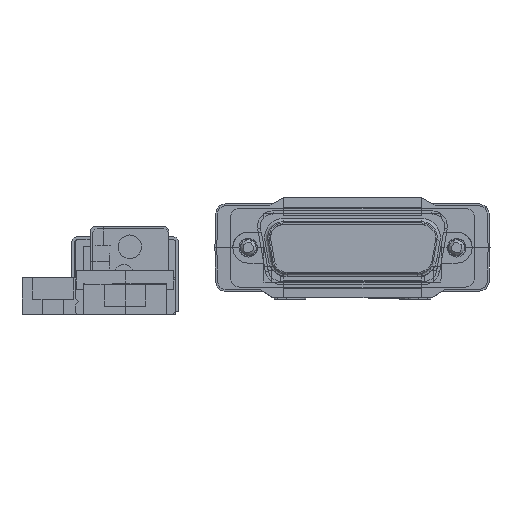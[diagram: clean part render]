
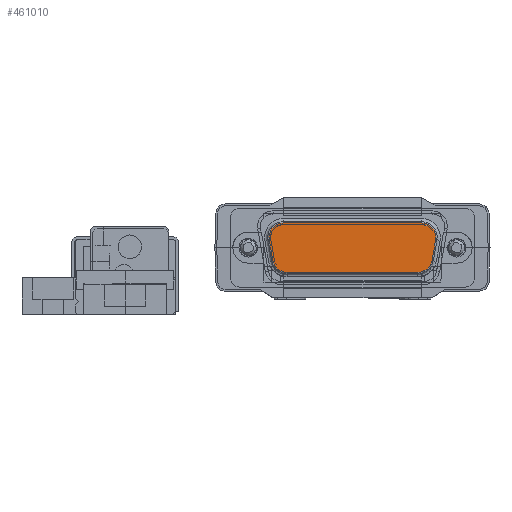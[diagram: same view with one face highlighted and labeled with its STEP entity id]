
A CAD part, left-side view. The second image highlights one B-rep face of the part: STEP entity #461010.
In plain terms, the highlighted planar face has unit normal (-1, 0, 0) as drawn and (1, 0, 0) by its records, which use the part's own axes.
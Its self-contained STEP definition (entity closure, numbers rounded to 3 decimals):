
#377160=CARTESIAN_POINT('',(-10.578,-37.393,
1.67));
#377170=DIRECTION('',(1.,0.,0.));
#377180=DIRECTION('',(0.,-1.,0.));
#377190=AXIS2_PLACEMENT_3D('',#377160,#377170,#377180);
#377200=CIRCLE('',#377190,2.05);
#377210=CARTESIAN_POINT('',(-10.578,-35.374,
2.026));
#377220=VERTEX_POINT('',#377210);
#377230=CARTESIAN_POINT('',(-10.578,-35.653,
2.755));
#377240=VERTEX_POINT('',#377230);
#377250=EDGE_CURVE('',#377220,#377240,#377200,.T.);
#402700=CARTESIAN_POINT('',(-10.578,-58.929,
-3.696));
#402710=VERTEX_POINT('',#402700);
#402760=CARTESIAN_POINT('',(-10.578,-44.902,
-3.696));
#402770=DIRECTION('',(0.,-1.,0.));
#402780=VECTOR('',#402770,1.);
#402790=LINE('',#402760,#402780);
#402800=CARTESIAN_POINT('',(-10.578,-36.819,
-3.696));
#402810=VERTEX_POINT('',#402800);
#402820=EDGE_CURVE('',#402810,#402710,#402790,.T.);
#403200=CARTESIAN_POINT('',(-10.578,-60.669,
-2.73));
#403210=VERTEX_POINT('',#403200);
#403240=CARTESIAN_POINT('',(-10.578,-58.929,
-1.646));
#403250=DIRECTION('',(1.,0.,0.));
#403260=DIRECTION('',(0.,-1.,0.));
#403270=AXIS2_PLACEMENT_3D('',#403240,#403250,#403260);
#403280=CIRCLE('',#403270,2.05);
#403290=EDGE_CURVE('',#403210,#402710,#403280,.T.);
#455550=CARTESIAN_POINT('',(-10.578,-34.8,
-1.29));
#455560=VERTEX_POINT('',#455550);
#455690=CARTESIAN_POINT('',(-10.578,-36.819,
-1.646));
#455700=DIRECTION('',(1.,0.,0.));
#455710=DIRECTION('',(0.,-1.,0.));
#455720=AXIS2_PLACEMENT_3D('',#455690,#455700,#455710);
#455730=CIRCLE('',#455720,2.05);
#455740=EDGE_CURVE('',#402810,#455560,#455730,.T.);
#458540=CARTESIAN_POINT('',(-10.578,-35.389,
2.05));
#458550=VERTEX_POINT('',#458540);
#458670=CARTESIAN_POINT('',(-10.578,-34.8,
-1.29));
#458680=DIRECTION('',(0.,-0.174,
0.985));
#458690=VECTOR('',#458680,1.);
#458700=LINE('',#458670,#458690);
#458710=EDGE_CURVE('',#455560,#458550,#458700,.T.);
#459240=CARTESIAN_POINT('',(-10.578,-34.785,
-1.314));
#459250=VERTEX_POINT('',#459240);
#459280=CARTESIAN_POINT('',(-10.578,-36.804,
-1.67));
#459290=DIRECTION('',(1.,0.,0.));
#459300=DIRECTION('',(0.,-1.,0.));
#459310=AXIS2_PLACEMENT_3D('',#459280,#459290,#459300);
#459320=CIRCLE('',#459310,2.05);
#459330=CARTESIAN_POINT('',(-10.578,-36.804,
-3.72));
#459340=VERTEX_POINT('',#459330);
#459350=EDGE_CURVE('',#459340,#459250,#459320,.T.);
#459600=CARTESIAN_POINT('',(-10.578,-36.128,
6.3));
#459610=DIRECTION('',(0.,-0.174,
0.985));
#459620=VECTOR('',#459610,1.);
#459630=LINE('',#459600,#459620);
#459640=EDGE_CURVE('',#459250,#377220,#459630,.T.);
#459830=CARTESIAN_POINT('',(-10.578,-37.408,
1.694));
#459840=DIRECTION('',(1.,0.,0.));
#459850=DIRECTION('',(0.,-1.,0.));
#459860=AXIS2_PLACEMENT_3D('',#459830,#459840,#459850);
#459870=CIRCLE('',#459860,2.05);
#459880=EDGE_CURVE('',#458550,#377240,#459870,.T.);
#460010=CARTESIAN_POINT('',(-10.578,-29.244,
6.3));
#460020=DIRECTION('',(1.,0.,0.));
#460030=DIRECTION('',(0.,-1.,0.));
#460040=AXIS2_PLACEMENT_3D('',#460010,#460020,#460030);
#460050=PLANE('',#460040);
#460060=ORIENTED_EDGE('',*,*,#459880,.T.);
#460070=ORIENTED_EDGE('',*,*,#458710,.T.);
#460080=ORIENTED_EDGE('',*,*,#455740,.T.);
#460090=ORIENTED_EDGE('',*,*,#402820,.F.);
#460100=ORIENTED_EDGE('',*,*,#403290,.T.);
#460110=CARTESIAN_POINT('',(-10.578,-58.914,
-1.67));
#460120=DIRECTION('',(1.,0.,0.));
#460130=DIRECTION('',(0.,-1.,0.));
#460140=AXIS2_PLACEMENT_3D('',#460110,#460120,#460130);
#460150=CIRCLE('',#460140,2.05);
#460160=CARTESIAN_POINT('',(-10.578,-58.914,
-3.72));
#460170=VERTEX_POINT('',#460160);
#460180=EDGE_CURVE('',#403210,#460170,#460150,.T.);
#460190=ORIENTED_EDGE('',*,*,#460180,.F.);
#460200=CARTESIAN_POINT('',(-10.578,-37.574,
-3.72));
#460210=DIRECTION('',(0.,1.,0.));
#460220=VECTOR('',#460210,1.);
#460230=LINE('',#460200,#460220);
#460240=EDGE_CURVE('',#460170,#459340,#460230,.T.);
#460250=ORIENTED_EDGE('',*,*,#460240,.F.);
#460260=ORIENTED_EDGE('',*,*,#459350,.F.);
#460270=ORIENTED_EDGE('',*,*,#459640,.F.);
#460280=ORIENTED_EDGE('',*,*,#377250,.F.);
#460290=EDGE_LOOP('',(#460280,#460270,#460260,#460250,#460190,#460100,
#460090,#460080,#460070,#460060));
#460300=FACE_BOUND('',#460290,.T.);
#460310=CARTESIAN_POINT('',(-10.578,-37.393,
1.67));
#460320=DIRECTION('',(1.,0.,0.));
#460330=DIRECTION('',(0.,-1.,0.));
#460340=AXIS2_PLACEMENT_3D('',#460310,#460320,#460330);
#460350=CIRCLE('',#460340,2.3);
#460360=CARTESIAN_POINT('',(-10.578,-35.128,
2.069));
#460370=VERTEX_POINT('',#460360);
#460380=CARTESIAN_POINT('',(-10.578,-37.393,
3.97));
#460390=VERTEX_POINT('',#460380);
#460400=EDGE_CURVE('',#460370,#460390,#460350,.T.);
#460410=ORIENTED_EDGE('',*,*,#460400,.T.);
#460420=CARTESIAN_POINT('',(-10.578,-35.874,
6.3));
#460430=DIRECTION('',(0.,-0.174,
0.985));
#460440=VECTOR('',#460430,1.);
#460450=LINE('',#460420,#460440);
#460460=CARTESIAN_POINT('',(-10.578,-34.539,
-1.271));
#460470=VERTEX_POINT('',#460460);
#460480=EDGE_CURVE('',#460470,#460370,#460450,.T.);
#460490=ORIENTED_EDGE('',*,*,#460480,.T.);
#460500=CARTESIAN_POINT('',(-10.578,-36.804,
-1.67));
#460510=DIRECTION('',(1.,0.,0.));
#460520=DIRECTION('',(0.,-1.,0.));
#460530=AXIS2_PLACEMENT_3D('',#460500,#460510,#460520);
#460540=CIRCLE('',#460530,2.3);
#460550=CARTESIAN_POINT('',(-10.578,-36.804,
-3.97));
#460560=VERTEX_POINT('',#460550);
#460570=EDGE_CURVE('',#460560,#460470,#460540,.T.);
#460580=ORIENTED_EDGE('',*,*,#460570,.T.);
#460590=CARTESIAN_POINT('',(-10.578,-37.574,
-3.97));
#460600=DIRECTION('',(0.,-1.,0.));
#460610=VECTOR('',#460600,1.);
#460620=LINE('',#460590,#460610);
#460630=CARTESIAN_POINT('',(-10.578,-58.914,
-3.97));
#460640=VERTEX_POINT('',#460630);
#460650=EDGE_CURVE('',#460560,#460640,#460620,.T.);
#460660=ORIENTED_EDGE('',*,*,#460650,.F.);
#460670=CARTESIAN_POINT('',(-10.578,-58.914,
-1.67));
#460680=DIRECTION('',(1.,0.,0.));
#460690=DIRECTION('',(0.,-1.,0.));
#460700=AXIS2_PLACEMENT_3D('',#460670,#460680,#460690);
#460710=CIRCLE('',#460700,2.3);
#460720=CARTESIAN_POINT('',(-10.578,-61.179,
-1.271));
#460730=VERTEX_POINT('',#460720);
#460740=EDGE_CURVE('',#460730,#460640,#460710,.T.);
#460750=ORIENTED_EDGE('',*,*,#460740,.T.);
#460760=CARTESIAN_POINT('',(-10.578,-59.844,
6.3));
#460770=DIRECTION('',(0.,0.174,
0.985));
#460780=VECTOR('',#460770,1.);
#460790=LINE('',#460760,#460780);
#460800=CARTESIAN_POINT('',(-10.578,-60.59,
2.069));
#460810=VERTEX_POINT('',#460800);
#460820=EDGE_CURVE('',#460730,#460810,#460790,.T.);
#460830=ORIENTED_EDGE('',*,*,#460820,.F.);
#460840=CARTESIAN_POINT('',(-10.578,-58.325,
1.67));
#460850=DIRECTION('',(1.,0.,0.));
#460860=DIRECTION('',(0.,-1.,0.));
#460870=AXIS2_PLACEMENT_3D('',#460840,#460850,#460860);
#460880=CIRCLE('',#460870,2.3);
#460890=CARTESIAN_POINT('',(-10.578,-58.325,
3.97));
#460900=VERTEX_POINT('',#460890);
#460910=EDGE_CURVE('',#460900,#460810,#460880,.T.);
#460920=ORIENTED_EDGE('',*,*,#460910,.T.);
#460930=CARTESIAN_POINT('',(-10.578,-29.244,
3.97));
#460940=DIRECTION('',(0.,-1.,0.));
#460950=VECTOR('',#460940,1.);
#460960=LINE('',#460930,#460950);
#460970=EDGE_CURVE('',#460390,#460900,#460960,.T.);
#460980=ORIENTED_EDGE('',*,*,#460970,.T.);
#460990=EDGE_LOOP('',(#460980,#460920,#460830,#460750,#460660,#460580,
#460490,#460410));
#461000=FACE_OUTER_BOUND('',#460990,.T.);
#461010=ADVANCED_FACE('',(#460300,#461000),#460050,.T.);
